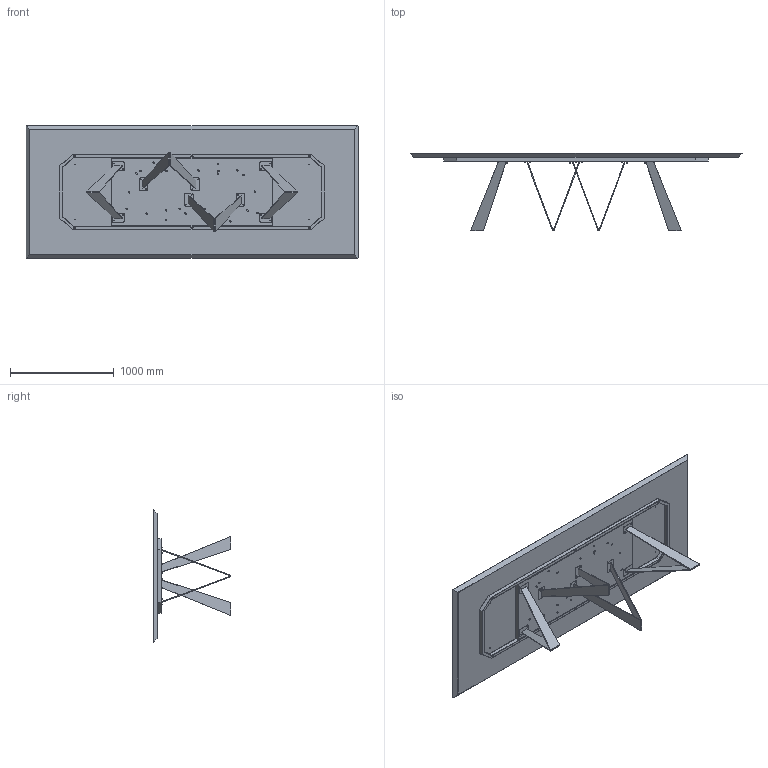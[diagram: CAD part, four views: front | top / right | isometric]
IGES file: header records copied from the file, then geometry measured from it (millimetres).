
Start section: SolidWorks IGES file using analytic representation for surfaces
Global section: file name: Y:\eforma\TECNICO\SOLIDWORKS\E-FORMA\1-TAVOLI\NOA TAVOLO\02 parts\NO24W_Noa_300x120x75h_Wood Rectangular.IGS; native system: SolidWorks 2022; preprocessor: SolidWorks 2022; author: eforma.tech; date: 240807.162851; units: millimetre
Bounding box: 3200 x 747.8 x 1280 mm (x, y, z)
Volume: 161424441.6 mm3; surface area: 13761998.6 mm2
Topology: 41 solids, 41 shells, 1322 faces, 3144 edges, 1856 vertices
Faces by surface type: revolution 746, plane 576
